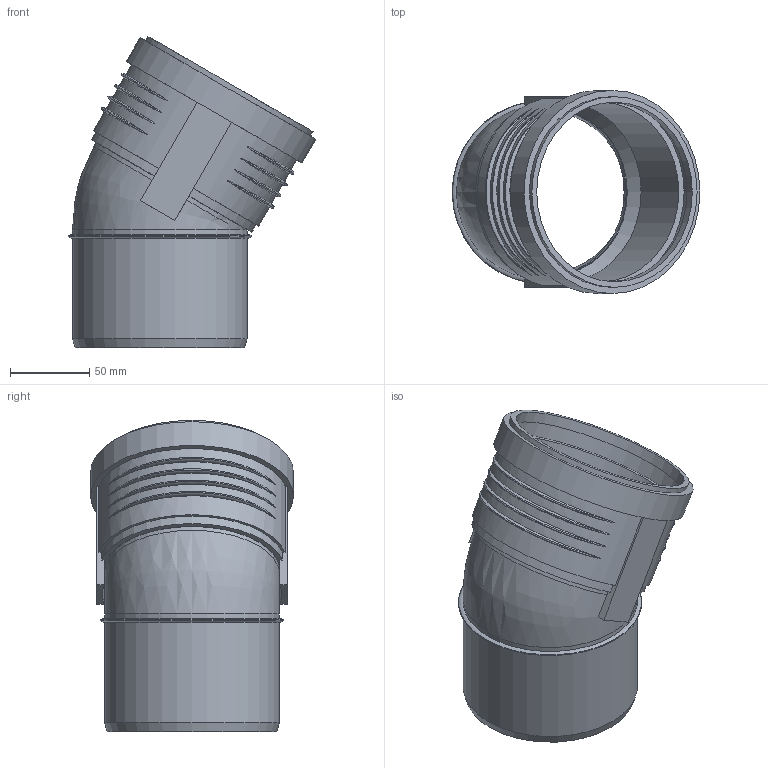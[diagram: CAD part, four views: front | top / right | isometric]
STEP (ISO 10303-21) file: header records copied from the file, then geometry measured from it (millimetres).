
FILE_DESCRIPTION(/* description */ (''),/* implementation_level */ '2;1');
FILE_NAME(/* name */ 'Z:\Geberit\Export\NewStep\390521.stp',/* time_stamp */ '2014-04-02T08:14:07+02:00',/* author */ ('ML'),/* organization */ (''),/* preprocessor_version */ 'ST-DEVELOPER v15.2',/* originating_system */ 'Autodesk Inventor 2014',/* authorisation */ '');
FILE_SCHEMA (('AUTOMOTIVE_DESIGN { 1 0 10303 214 3 1 1 }'));
Length unit declared in the file: millimetre
Products named in the file (3): 861332; 861404; 390521
Bounding box: 156.31 x 128.1 x 196.32 mm (x, y, z)
Volume: 249917.3 mm3; surface area: 145604.8 mm2
Topology: 2 solids, 2 shells, 68 faces, 162 edges, 109 vertices
Faces by surface type: torus 28, plane 19, cylinder 18, cone 2, bspline 1
Full cylindrical faces by diameter (mm): 103 x2, 103.2 x1, 110.2 x4, 113.3 x2, 120.3 x1, 121.1 x1, 128.1 x1
Entity records: 2726 total; most frequent: CARTESIAN_POINT 1150, DIRECTION 290, ORIENTED_EDGE 278, EDGE_CURVE 139, AXIS2_PLACEMENT_3D 127, VERTEX_POINT 106, EDGE_LOOP 103, STYLED_ITEM 70
